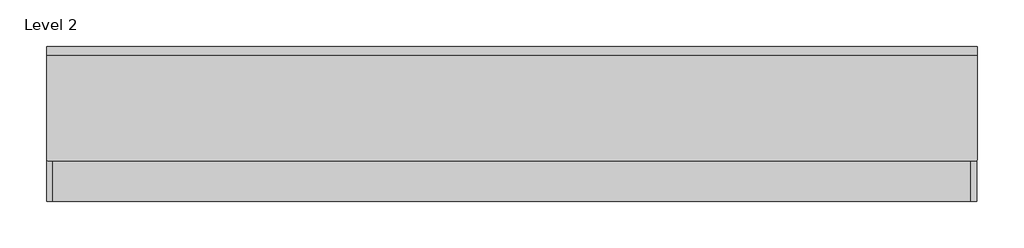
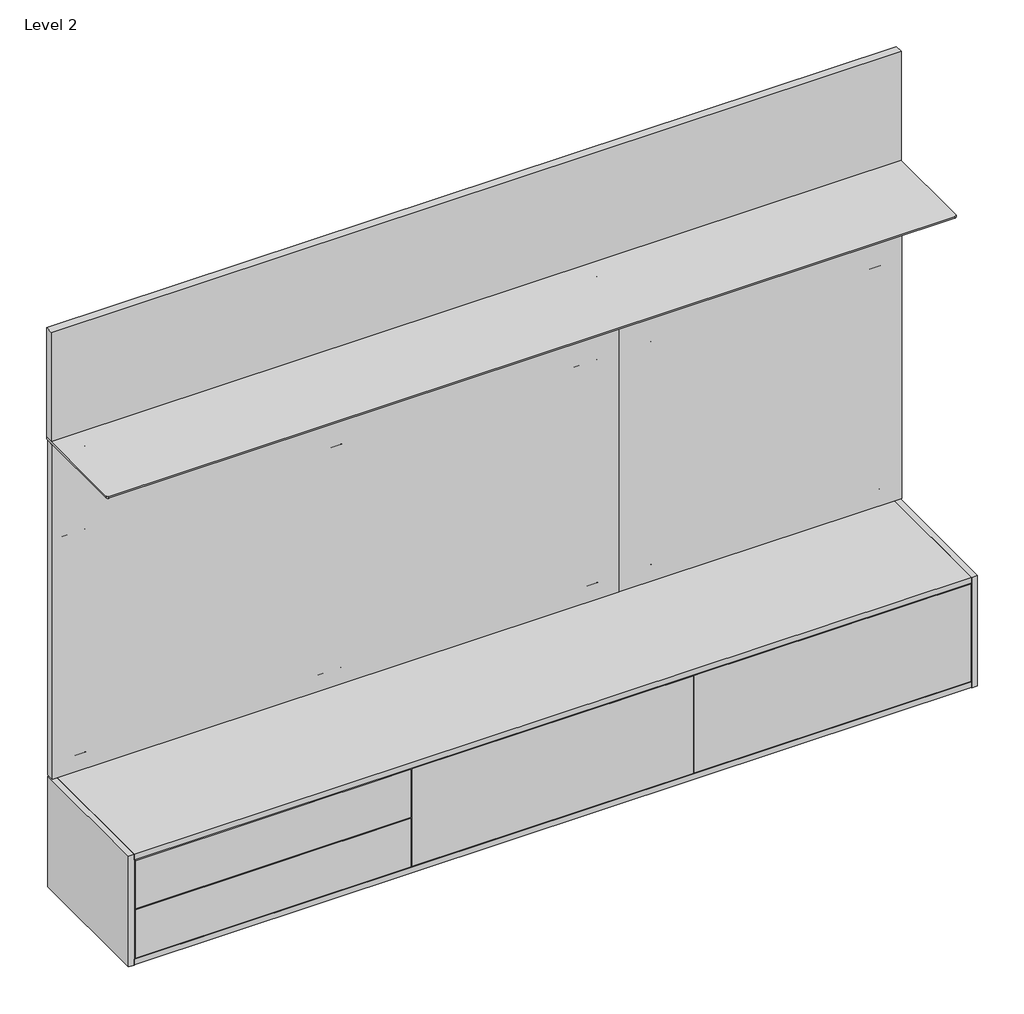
# One storey: 4 furniture elements.
"""IFC4 building model written with IfcOpenShell, lengths in millimetres."""

from ifc_helpers import new_model, si_unit, origin, place, context, project, spatial, transform, mapped, element, save
from components import furniture_86b5e4a5, furniture_d7a22792, furniture_9ae07bf0, furniture_38d5736b

model = new_model("IFC4")

# Units and contexts
model_context = context("Model", 3, world=origin())
ifc_project = project(units=[si_unit("LENGTHUNIT", "METRE", prefix="MILLI")], contexts=[model_context])

# Site, building, storey
site = spatial("IfcSite", under=ifc_project)
building = spatial("IfcBuilding", under=site)
storey = spatial("IfcBuildingStorey", under=building, Name="Level 2", Elevation=3048.0)

# Furniture
placement = place(None, origin())
furniture_shape = furniture_86b5e4a5(model_context)
element("IfcFurniture", 1, ObjectType="Geiger_GeigerOneCasegoods_HangingStorageThreeSections : TFL 108Wx18Dx14.875H", at=placement, inside=storey, context=model_context, shape_type="MappedRepresentation", body=[
    mapped(furniture_shape, transform((-1431.8892474, 9203.9186556, 123.1585168), x_axis=(1.0, 0.0, 0.0), y_axis=(0.0, 1.0, 0.0), z_axis=(0.0, 0.0, 1.0))),
])
furniture_2_shape = furniture_d7a22792(model_context)
element("IfcFurniture", 2, ObjectType="Geiger_GeigerOneCasegoods_OverheadStorageMetalShelf : Horizontal Veneer Back 108Wx 13.5Dx 14.875H", at=placement, inside=storey, context=model_context, shape_type="MappedRepresentation", body=[
    mapped(furniture_2_shape, transform((-1431.8892474, 9210.3186556, 1649.3937168), x_axis=(1.0, 0.0, 0.0), y_axis=(0.0, 1.0, 0.0), z_axis=(0.0, 0.0, 1.0))),
])
furniture_3_shape = furniture_9ae07bf0(model_context)
element("IfcFurniture", 3, ObjectType="Geiger_GeigerOneCasegoods_WallTileTopTileorWallMountedWhiteM : 36Wx 1.25Dx 45H", at=placement, inside=storey, context=model_context, shape_type="MappedRepresentation", body=[
    mapped(furniture_3_shape, transform((395.3009526, 9203.9186556, 505.8603168), x_axis=(1.0, 0.0, 0.0), y_axis=(0.0, 1.0, 0.0), z_axis=(0.0, 0.0, 1.0))),
])
furniture_4_shape = furniture_38d5736b(model_context)
element("IfcFurniture", 4, ObjectType="Geiger_GeigerOneCasegoods_WallTileTopTileorWallMountedFabric : RR Fabric 72Wx 1.25Dx 45H 2.5 yds", at=placement, inside=storey, context=model_context, shape_type="MappedRepresentation", body=[
    mapped(furniture_4_shape, transform((-1431.8892474, 9203.9186556, 505.8603168), x_axis=(1.0, 0.0, 0.0), y_axis=(0.0, 1.0, 0.0), z_axis=(0.0, 0.0, 1.0))),
])

save(model, "model.ifc")
